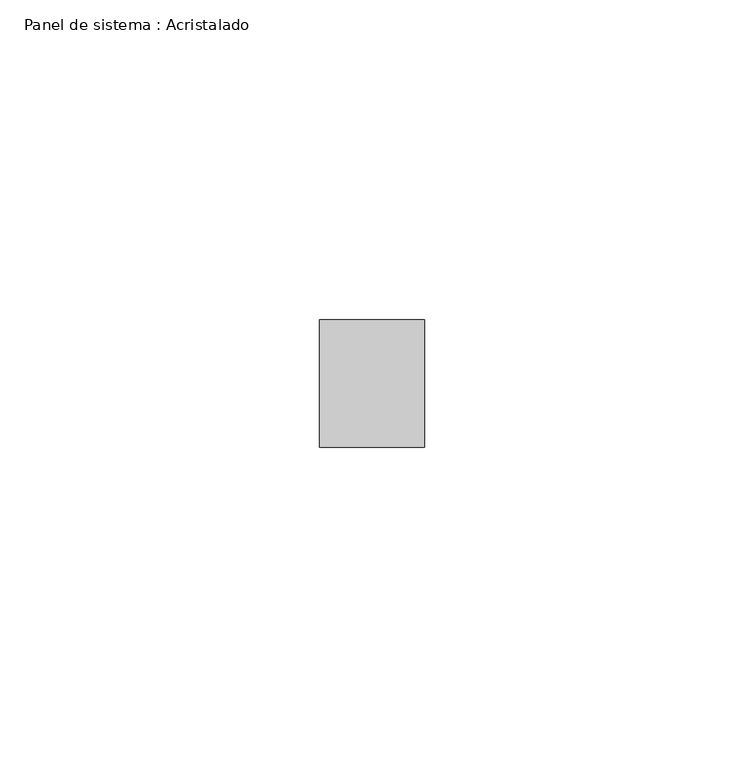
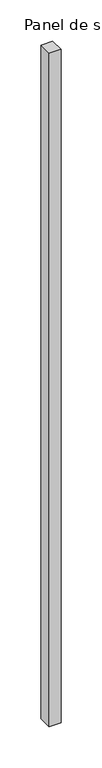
"""IFC4 building model written with IfcOpenShell, lengths in millimetres: plate geometry, Panel de sistema : Acristalado."""

from ifc_helpers import new_model, si_unit, origin, origin_with_axes, place, context, project, spatial, polyline, outline, extrude, source, transform, mapped, element, save


def panel_de_sistema_acristalado_fbf3765a(model_context):
    return source(origin(), model_context, "Body", "SweptSolid", [
        extrude(outline(polyline([(8.2352306, -10.0), (-8.2352306, -10.0), (-8.2352306, 10.0), (8.2352306, 10.0), (8.2352306, -10.0)])), origin_with_axes(), (0.0, 0.0, 1.0), 1000.0),
    ])


if __name__ == "__main__":
    model = new_model("IFC4")
    model_context = context("Model", 3, world=origin())
    ifc_project = project(units=[si_unit("LENGTHUNIT", "METRE", prefix="MILLI")], contexts=[model_context])
    site = spatial("IfcSite", under=ifc_project)
    building = spatial("IfcBuilding", under=site)
    placement = place(None, origin())
    panel_de_sistema_acristalado_shape = panel_de_sistema_acristalado_fbf3765a(model_context)
    element("IfcPlate", 1, ObjectType="Panel de sistema : Acristalado", at=placement, inside=building, context=model_context, shape_type="MappedRepresentation", body=[
        mapped(panel_de_sistema_acristalado_shape, transform((0.0, 0.0, 0.0), x_axis=(1.0, 0.0, 0.0), y_axis=(0.0, 1.0, 0.0), z_axis=(0.0, 0.0, 1.0))),
    ])
    save(model, "model.ifc")
